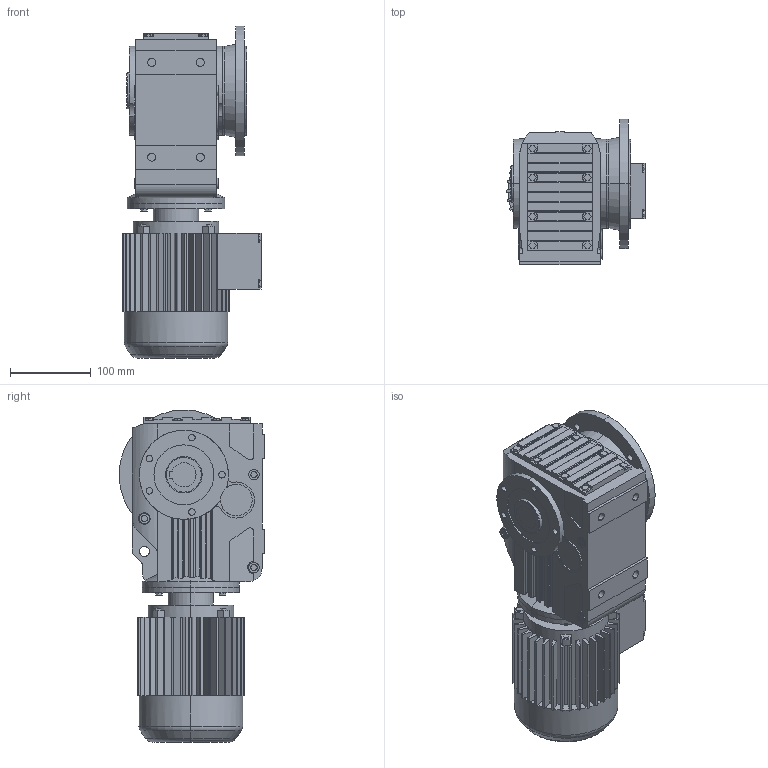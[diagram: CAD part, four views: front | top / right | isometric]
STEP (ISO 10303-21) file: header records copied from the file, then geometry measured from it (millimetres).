
FILE_DESCRIPTION(('Open CASCADE Model'),'2;1');
FILE_NAME('Open CASCADE Shape Model','2018-09-03T00:03:25',('Author'),( 'Open CASCADE'),'Open CASCADE STEP processor 6.3','Open CASCADE 6.3' ,'Unknown');
FILE_SCHEMA(('AUTOMOTIVE_DESIGN_CC2 { 1 2 10303 214 -1 1 5 4 }'));
Length unit declared in the file: millimetre
Products named in the file (5): 41_KAF37DR63-A; KA37‵107_37.step; 萇儂_120-DR63-191-246-132-105.step; す瑩諾陑粣K_37.step; 楊擘K_37.step
Assembly tree (4 placements, depth 2):
  41_KAF37DR63-A
    KA37‵107_37.step
    萇儂_120-DR63-191-246-132-105.step
    す瑩諾陑粣K_37.step
    楊擘K_37.step
Bounding box: 171.5 x 180 x 410 mm (x, y, z)
Volume: 5543862.8 mm3; surface area: 448303.8 mm2
Topology: 4 solids, 4 shells, 854 faces, 2230 edges, 1451 vertices
Faces by surface type: plane 554, cylinder 286, cone 10, torus 4
Entity records: 63441 total; most frequent: CARTESIAN_POINT 21618, DIRECTION 7001, ORIENTED_EDGE 4460, PCURVE 4460, DEFINITIONAL_REPRESENTATION 4460, LINE 3623, VECTOR 3623, EDGE_CURVE 2230
